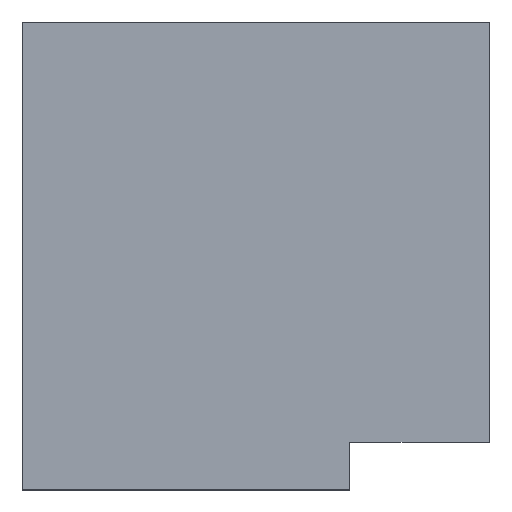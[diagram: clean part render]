
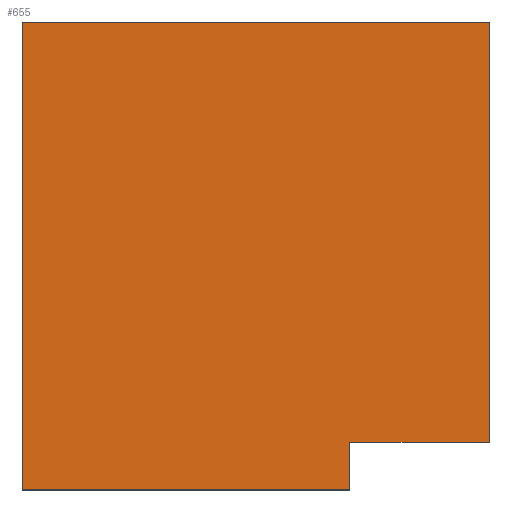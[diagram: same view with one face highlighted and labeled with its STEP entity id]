
A CAD part, top view. The second image highlights one B-rep face of the part: STEP entity #655.
In plain terms, the highlighted planar face has unit normal (0, 0, 1).
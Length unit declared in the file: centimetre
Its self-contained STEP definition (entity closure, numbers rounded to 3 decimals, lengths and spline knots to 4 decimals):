
#2 = DIRECTION ( 'NONE',  ( 1., 0., 0. ) ) ;
#5 = DIRECTION ( 'NONE',  ( 0., -1., 0. ) ) ;
#23 = CARTESIAN_POINT ( 'NONE',  ( 700.4598, 100.943, 1000. ) ) ;
#45 = VECTOR ( 'NONE', #5, 100. ) ;
#73 = DIRECTION ( 'NONE',  ( 1., 0., 0. ) ) ;
#80 = CARTESIAN_POINT ( 'NONE',  ( 0., 1000., 1000. ) ) ;
#95 = VECTOR ( 'NONE', #577, 100. ) ;
#96 = CARTESIAN_POINT ( 'NONE',  ( 700.4598, 0., 1000. ) ) ;
#104 = VERTEX_POINT ( 'NONE', #802 ) ;
#112 = CARTESIAN_POINT ( 'NONE',  ( 0., 1000., 1000. ) ) ;
#124 = CARTESIAN_POINT ( 'NONE',  ( 700.4598, 0., 1000. ) ) ;
#143 = EDGE_CURVE ( 'NONE', #104, #247, #793, .T. ) ;
#145 = CARTESIAN_POINT ( 'NONE',  ( 700.4598, 100.943, 1000. ) ) ;
#153 = VECTOR ( 'NONE', #73, 100. ) ;
#189 = VERTEX_POINT ( 'NONE', #23 ) ;
#191 = CARTESIAN_POINT ( 'NONE',  ( 1000., 1000., 1000. ) ) ;
#202 = DIRECTION ( 'NONE',  ( 0., 0., 1. ) ) ;
#222 = ORIENTED_EDGE ( 'NONE', *, *, #720, .T. ) ;
#232 = ORIENTED_EDGE ( 'NONE', *, *, #143, .T. ) ;
#247 = VERTEX_POINT ( 'NONE', #191 ) ;
#264 = ORIENTED_EDGE ( 'NONE', *, *, #742, .T. ) ;
#270 = EDGE_CURVE ( 'NONE', #189, #897, #547, .T. ) ;
#276 = PLANE ( 'NONE',  #915 ) ;
#286 = EDGE_CURVE ( 'NONE', #398, #897, #824, .T. ) ;
#295 = CARTESIAN_POINT ( 'NONE',  ( 0., 1000., 1000. ) ) ;
#298 = DIRECTION ( 'NONE',  ( 0., 1., 0. ) ) ;
#345 = VECTOR ( 'NONE', #298, 100. ) ;
#364 = CARTESIAN_POINT ( 'NONE',  ( 0., 0., 1000. ) ) ;
#375 = EDGE_LOOP ( 'NONE', ( #884, #232, #222, #264, #443, #666 ) ) ;
#398 = VERTEX_POINT ( 'NONE', #364 ) ;
#443 = ORIENTED_EDGE ( 'NONE', *, *, #286, .T. ) ;
#470 = VERTEX_POINT ( 'NONE', #112 ) ;
#484 = CARTESIAN_POINT ( 'NONE',  ( 0., 0., 1000. ) ) ;
#494 = LINE ( 'NONE', #145, #153 ) ;
#547 = LINE ( 'NONE', #124, #779 ) ;
#557 = CARTESIAN_POINT ( 'NONE',  ( 0., 0., 1000. ) ) ;
#561 = DIRECTION ( 'NONE',  ( 1., 0., 0. ) ) ;
#577 = DIRECTION ( 'NONE',  ( -1., 0., 0. ) ) ;
#620 = DIRECTION ( 'NONE',  ( 0., -1., 0. ) ) ;
#655 = ADVANCED_FACE ( 'NONE', ( #914 ), #276, .T. ) ;
#666 = ORIENTED_EDGE ( 'NONE', *, *, #270, .F. ) ;
#708 = EDGE_CURVE ( 'NONE', #189, #104, #494, .T. ) ;
#715 = LINE ( 'NONE', #80, #95 ) ;
#720 = EDGE_CURVE ( 'NONE', #247, #470, #715, .T. ) ;
#741 = CARTESIAN_POINT ( 'NONE',  ( 1000., 1000., 1000. ) ) ;
#742 = EDGE_CURVE ( 'NONE', #470, #398, #852, .T. ) ;
#779 = VECTOR ( 'NONE', #620, 100. ) ;
#793 = LINE ( 'NONE', #741, #345 ) ;
#802 = CARTESIAN_POINT ( 'NONE',  ( 1000., 100.943, 1000. ) ) ;
#824 = LINE ( 'NONE', #484, #846 ) ;
#846 = VECTOR ( 'NONE', #561, 100. ) ;
#852 = LINE ( 'NONE', #295, #45 ) ;
#884 = ORIENTED_EDGE ( 'NONE', *, *, #708, .T. ) ;
#897 = VERTEX_POINT ( 'NONE', #96 ) ;
#914 = FACE_OUTER_BOUND ( 'NONE', #375, .T. ) ;
#915 = AXIS2_PLACEMENT_3D ( 'NONE', #557, #202, #2 ) ;
